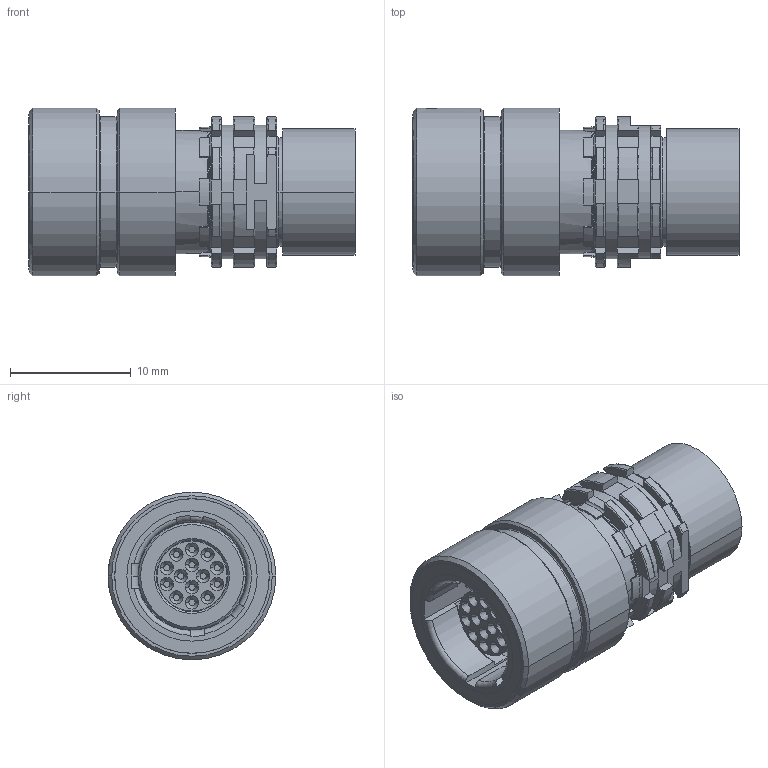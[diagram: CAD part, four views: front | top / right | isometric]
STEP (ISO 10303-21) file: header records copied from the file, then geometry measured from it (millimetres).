
FILE_DESCRIPTION((''),'2;1');
FILE_NAME('K11Y_R-P14WCD0-0000_EXTERN','2020-10-22T08:20:24',('EUnterhaslberger'),(''),'CREO PARAMETRIC BY PTC INC, 2018300','CREO PARAMETRIC BY PTC INC, 2018300','');
FILE_SCHEMA(('AP242_MANAGED_MODEL_BASED_3D_ENGINEERING_MIM_LF { 1 0 10303 442 1 1 4 }'));
Length unit declared in the file: millimetre
Products named in the file (1): K11Y_R-P14WCD0-0000_EXTERN
Bounding box: 27.01 x 13.9 x 13.9 mm (x, y, z)
Volume: 2208.7 mm3; surface area: 3659.5 mm2
Topology: 2 solids, 2 shells, 763 faces, 2120 edges, 1382 vertices
Faces by surface type: plane 278, cylinder 235, cone 133, torus 117
Entity records: 31233 total; most frequent: CARTESIAN_POINT 6298, ORIENTED_EDGE 4184, DIRECTION 4181, EDGE_CURVE 2092, AXIS2_PLACEMENT_3D 1641, VERTEX_POINT 1382, VECTOR 899, LINE 899
